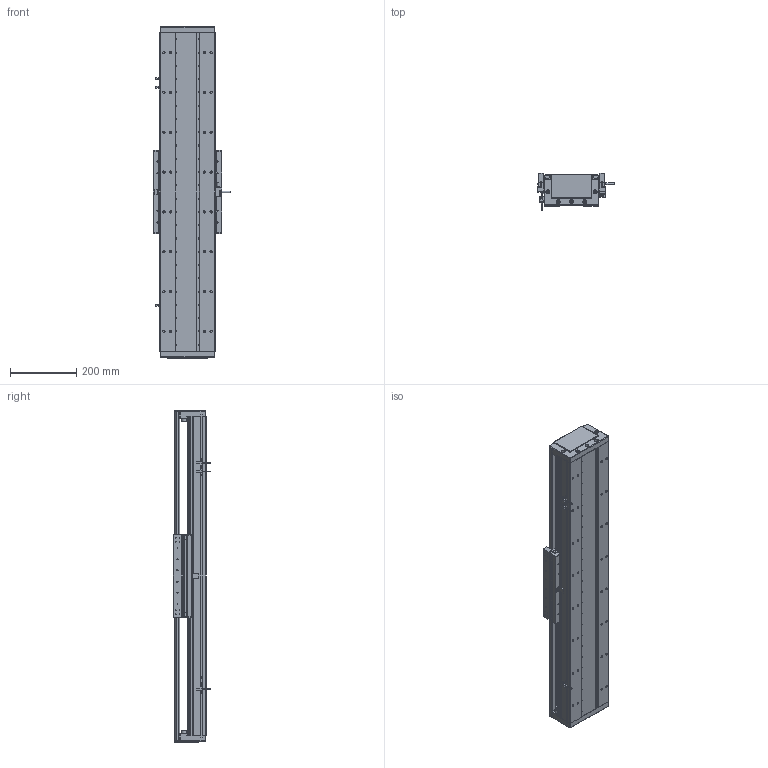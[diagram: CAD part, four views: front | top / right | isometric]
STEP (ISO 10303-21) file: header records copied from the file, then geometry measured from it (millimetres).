
FILE_DESCRIPTION (( 'STEP AP203' ), '1' );
FILE_NAME ('DA-C165-C3-T660-C010-0.2 直线电机.STEP', '2023-06-13T08:40:32', ( '微软用户' ), ( '微软中国' ), 'SwSTEP 2.0', 'SolidWorks 2019', '' );
FILE_SCHEMA (( 'CONFIG_CONTROL_DESIGN' ));
Length unit declared in the file: millimetre
Products named in the file (15): DA-C165-C3-T660-C010-0.2 眻盄萇儂; 葩璃 CKM03-W075-C1C2-TP-3.0^DA-C165-C3-T-C010-0.2-N 眻盄萇儂; 葩璃 PM-T45^DA-C165-C3-T-C010-0.2-N 眻盄萇儂; 葩璃 CKM01-W075-TRL^DA-C165-C3-T-C010-0.2-N 眻盄萇儂; 复件 XD-U-02L 磁栅尺^DA-C165-C3-T-C010-0.2-N 直线电机_T; 复件 DA165-DG-H-N-00 端盖^DA-C165-C3-T-C010-0.2-N 直线电机; 复件 CU165 底座^IU-CU165-L 底座导轨_L960; 复件 DA95-HXJ-00 缓冲橡胶^DA-C165-C3-T-C010-0.2-N 直线电机; 复件 DMA-010-0.2 读数头^DA-C165-C3-T-C010-0.2-N 直线电机; IU-CU165-L 菁釱絳寢; 复件 DA165-T-002-00 盖板^DA-C165-C3-T-C010-0.2-N 直线电机_0840-002-00; 珨极趙賑雄怢啣C3-wf; 复件 DA165-GYP-00 光电感应片^DA-C165-C3-T-C010-0.2-N 直线电机; 葩璃 DA95-GT-T-00^IU-CU165-L 菁釱絳寢_T; 复件 六角薄螺母 M3^DA-C165-C3-T-C010-0.2-N 直线电机_GB_FASTENER_NUT_STNAB M3-C
Assembly tree (30 placements, depth 3):
  DA-C165-C3-T660-C010-0.2 眻盄萇儂
    IU-CU165-L 菁釱絳寢
      复件 CU165 底座^IU-CU165-L 底座导轨_L960
      葩璃 DA95-GT-T-00^IU-CU165-L 菁釱絳寢_T  x4
    复件 DA165-DG-H-N-00 端盖^DA-C165-C3-T-C010-0.2-N 直线电机  x2
    复件 DA95-HXJ-00 缓冲橡胶^DA-C165-C3-T-C010-0.2-N 直线电机  x4
    复件 DA165-T-002-00 盖板^DA-C165-C3-T-C010-0.2-N 直线电机_0840-002-00
    复件 XD-U-02L 磁栅尺^DA-C165-C3-T-C010-0.2-N 直线电机_T
    葩璃 PM-T45^DA-C165-C3-T-C010-0.2-N 眻盄萇儂  x3
    葩璃 CKM01-W075-TRL^DA-C165-C3-T-C010-0.2-N 眻盄萇儂
    复件 DA165-GYP-00 光电感应片^DA-C165-C3-T-C010-0.2-N 直线电机
    复件 DMA-010-0.2 读数头^DA-C165-C3-T-C010-0.2-N 直线电机
    葩璃 CKM03-W075-C1C2-TP-3.0^DA-C165-C3-T-C010-0.2-N 眻盄萇儂
    复件 六角薄螺母 M3^DA-C165-C3-T-C010-0.2-N 直线电机_GB_FASTENER_NUT_STNAB M3-C  x8
    珨极趙賑雄怢啣C3-wf
Bounding box: 233 x 111.45 x 1000 mm (x, y, z)
Volume: 7986216.9 mm3; surface area: 2104262.8 mm2
Topology: 68 solids, 118 shells, 3511 faces, 9338 edges, 5778 vertices
Faces by surface type: cylinder 1730, plane 1171, cone 552, torus 54, sphere 4
Entity records: 102879 total; most frequent: CARTESIAN_POINT 23940, DIRECTION 16438, ORIENTED_EDGE 15730, EDGE_CURVE 7865, AXIS2_PLACEMENT_3D 6224, VERTEX_POINT 5066, VECTOR 3990, LINE 3990
